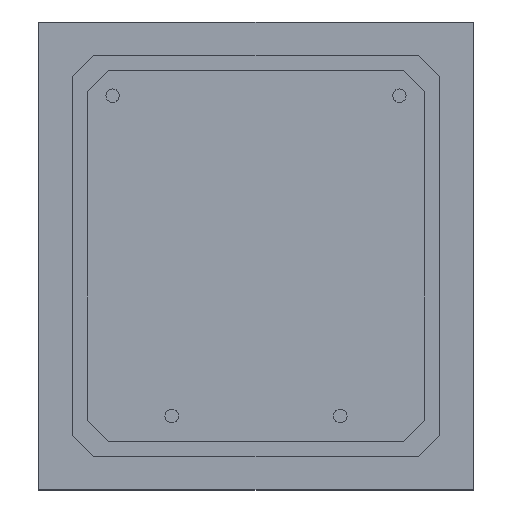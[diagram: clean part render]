
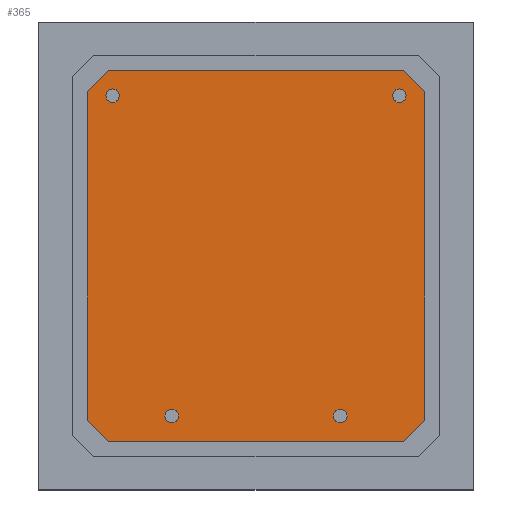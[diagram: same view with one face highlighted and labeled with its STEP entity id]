
A CAD part, top view. The second image highlights one B-rep face of the part: STEP entity #365.
In plain terms, the highlighted planar face has unit normal (0, 0, 1).
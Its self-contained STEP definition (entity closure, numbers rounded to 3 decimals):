
#67 = EDGE_CURVE ( 'NONE', #2549, #348, #2860, .T. ) ;
#72 = VERTEX_POINT ( 'NONE', #4650 ) ;
#82 = PLANE ( 'NONE',  #5729 ) ;
#152 = CARTESIAN_POINT ( 'NONE',  ( -16.9, -43.5, 1.6 ) ) ;
#180 = CARTESIAN_POINT ( 'NONE',  ( -33.5, -49.5, 1.6 ) ) ;
#206 = EDGE_LOOP ( 'NONE', ( #2972, #2688 ) ) ;
#213 = EDGE_CURVE ( 'NONE', #4214, #3494, #5117, .T. ) ;
#266 = DIRECTION ( 'NONE',  ( 0.707, -0.707, 0. ) ) ;
#274 = EDGE_CURVE ( 'NONE', #2752, #1969, #4060, .T. ) ;
#280 = CARTESIAN_POINT ( 'NONE',  ( -33.5, 38.5, 1.6 ) ) ;
#348 = VERTEX_POINT ( 'NONE', #152 ) ;
#349 = DIRECTION ( 'NONE',  ( 1., 0., 0. ) ) ;
#365 = ADVANCED_FACE ( 'NONE', ( #3114, #5958, #2092, #3531, #4486 ), #82, .T. ) ;
#402 = LINE ( 'NONE', #4826, #2582 ) ;
#424 = DIRECTION ( 'NONE',  ( 0., 0., 1. ) ) ;
#443 = EDGE_CURVE ( 'NONE', #1400, #5075, #1238, .T. ) ;
#511 = EDGE_LOOP ( 'NONE', ( #1100, #3897 ) ) ;
#573 = CARTESIAN_POINT ( 'NONE',  ( 36.5, 38.5, 1.6 ) ) ;
#617 = EDGE_CURVE ( 'NONE', #3647, #1400, #402, .T. ) ;
#626 = CIRCLE ( 'NONE', #1239, 1.6 ) ;
#730 = DIRECTION ( 'NONE',  ( 0., 0., 1. ) ) ;
#738 = EDGE_CURVE ( 'NONE', #3494, #4214, #3906, .T. ) ;
#748 = VERTEX_POINT ( 'NONE', #2019 ) ;
#779 = EDGE_CURVE ( 'NONE', #5577, #3647, #2138, .T. ) ;
#815 = VECTOR ( 'NONE', #3143, 1000. ) ;
#836 = DIRECTION ( 'NONE',  ( 1., 0., 0. ) ) ;
#892 = CARTESIAN_POINT ( 'NONE',  ( -32.5, 32.5, 1.6 ) ) ;
#925 = DIRECTION ( 'NONE',  ( 0., -1., 0. ) ) ;
#939 = AXIS2_PLACEMENT_3D ( 'NONE', #2254, #2831, #836 ) ;
#1100 = ORIENTED_EDGE ( 'NONE', *, *, #738, .F. ) ;
#1104 = CARTESIAN_POINT ( 'NONE',  ( 41.5, 33.5, 1.6 ) ) ;
#1238 = LINE ( 'NONE', #280, #3598 ) ;
#1239 = AXIS2_PLACEMENT_3D ( 'NONE', #4823, #2401, #4345 ) ;
#1292 = EDGE_LOOP ( 'NONE', ( #5805, #3855, #4406, #4730, #3671, #5293, #3939, #2321 ) ) ;
#1320 = DIRECTION ( 'NONE',  ( 1., 0., 0. ) ) ;
#1360 = CARTESIAN_POINT ( 'NONE',  ( 37.1, 32.5, 1.6 ) ) ;
#1372 = DIRECTION ( 'NONE',  ( 0., 0., 1. ) ) ;
#1400 = VERTEX_POINT ( 'NONE', #5369 ) ;
#1566 = DIRECTION ( 'NONE',  ( 0., 0., 1. ) ) ;
#1646 = ORIENTED_EDGE ( 'NONE', *, *, #5854, .F. ) ;
#1659 = EDGE_CURVE ( 'NONE', #2761, #2752, #1733, .T. ) ;
#1692 = EDGE_CURVE ( 'NONE', #348, #2549, #6312, .T. ) ;
#1733 = LINE ( 'NONE', #6167, #2851 ) ;
#1748 = CARTESIAN_POINT ( 'NONE',  ( 21.5, -43.5, 1.6 ) ) ;
#1796 = LINE ( 'NONE', #3316, #6060 ) ;
#1889 = LINE ( 'NONE', #3845, #5123 ) ;
#1969 = VERTEX_POINT ( 'NONE', #4495 ) ;
#2019 = CARTESIAN_POINT ( 'NONE',  ( 19.9, -43.5, 1.6 ) ) ;
#2054 = CARTESIAN_POINT ( 'NONE',  ( 0., 0., 1.6 ) ) ;
#2073 = CIRCLE ( 'NONE', #939, 1.6 ) ;
#2092 = FACE_OUTER_BOUND ( 'NONE', #1292, .T. ) ;
#2138 = LINE ( 'NONE', #1104, #4717 ) ;
#2148 = CARTESIAN_POINT ( 'NONE',  ( 23.1, -43.5, 1.6 ) ) ;
#2254 = CARTESIAN_POINT ( 'NONE',  ( 35.5, 32.5, 1.6 ) ) ;
#2304 = CARTESIAN_POINT ( 'NONE',  ( 35.5, 32.5, 1.6 ) ) ;
#2321 = ORIENTED_EDGE ( 'NONE', *, *, #5228, .T. ) ;
#2401 = DIRECTION ( 'NONE',  ( 0., 0., 1. ) ) ;
#2544 = VERTEX_POINT ( 'NONE', #2148 ) ;
#2549 = VERTEX_POINT ( 'NONE', #4134 ) ;
#2582 = VECTOR ( 'NONE', #4888, 1000. ) ;
#2598 = DIRECTION ( 'NONE',  ( -0.707, 0.707, 0. ) ) ;
#2597 = CIRCLE ( 'NONE', #5749, 1.6 ) ;
#2688 = ORIENTED_EDGE ( 'NONE', *, *, #1692, .F. ) ;
#2691 = VECTOR ( 'NONE', #925, 1000. ) ;
#2732 = ORIENTED_EDGE ( 'NONE', *, *, #3547, .F. ) ;
#2752 = VERTEX_POINT ( 'NONE', #5632 ) ;
#2761 = VERTEX_POINT ( 'NONE', #4647 ) ;
#2821 = CARTESIAN_POINT ( 'NONE',  ( -32.5, 32.5, 1.6 ) ) ;
#2831 = DIRECTION ( 'NONE',  ( 0., 0., 1. ) ) ;
#2851 = VECTOR ( 'NONE', #266, 1000. ) ;
#2860 = CIRCLE ( 'NONE', #4385, 1.6 ) ;
#2931 = EDGE_CURVE ( 'NONE', #1969, #3038, #1889, .T. ) ;
#2972 = ORIENTED_EDGE ( 'NONE', *, *, #67, .F. ) ;
#3001 = CIRCLE ( 'NONE', #3810, 1.6 ) ;
#3038 = VERTEX_POINT ( 'NONE', #3077 ) ;
#3077 = CARTESIAN_POINT ( 'NONE',  ( 41.5, -44.5, 1.6 ) ) ;
#3114 = FACE_BOUND ( 'NONE', #206, .T. ) ;
#3143 = DIRECTION ( 'NONE',  ( 1., 0., 0. ) ) ;
#3283 = DIRECTION ( 'NONE',  ( 0., 0., 1. ) ) ;
#3316 = CARTESIAN_POINT ( 'NONE',  ( 41.5, -44.5, 1.6 ) ) ;
#3361 = DIRECTION ( 'NONE',  ( 0.707, 0.707, 0. ) ) ;
#3386 = EDGE_CURVE ( 'NONE', #2544, #748, #626, .T. ) ;
#3432 = CARTESIAN_POINT ( 'NONE',  ( -38.5, 33.5, 1.6 ) ) ;
#3453 = AXIS2_PLACEMENT_3D ( 'NONE', #5647, #3283, #3731 ) ;
#3494 = VERTEX_POINT ( 'NONE', #4655 ) ;
#3531 = FACE_BOUND ( 'NONE', #4606, .T. ) ;
#3539 = EDGE_CURVE ( 'NONE', #3038, #5577, #1796, .T. ) ;
#3547 = EDGE_CURVE ( 'NONE', #72, #5842, #2073, .T. ) ;
#3598 = VECTOR ( 'NONE', #3680, 1000. ) ;
#3647 = VERTEX_POINT ( 'NONE', #573 ) ;
#3671 = ORIENTED_EDGE ( 'NONE', *, *, #779, .T. ) ;
#3680 = DIRECTION ( 'NONE',  ( -0.707, -0.707, 0. ) ) ;
#3731 = DIRECTION ( 'NONE',  ( 1., 0., 0. ) ) ;
#3765 = DIRECTION ( 'NONE',  ( 0., 0., 1. ) ) ;
#3791 = AXIS2_PLACEMENT_3D ( 'NONE', #892, #1372, #5275 ) ;
#3810 = AXIS2_PLACEMENT_3D ( 'NONE', #1748, #424, #4338 ) ;
#3845 = CARTESIAN_POINT ( 'NONE',  ( 36.5, -49.5, 1.6 ) ) ;
#3855 = ORIENTED_EDGE ( 'NONE', *, *, #274, .T. ) ;
#3897 = ORIENTED_EDGE ( 'NONE', *, *, #213, .F. ) ;
#3906 = CIRCLE ( 'NONE', #4816, 1.6 ) ;
#3939 = ORIENTED_EDGE ( 'NONE', *, *, #443, .T. ) ;
#4060 = LINE ( 'NONE', #180, #815 ) ;
#4134 = CARTESIAN_POINT ( 'NONE',  ( -20.1, -43.5, 1.6 ) ) ;
#4214 = VERTEX_POINT ( 'NONE', #5775 ) ;
#4338 = DIRECTION ( 'NONE',  ( 1., 0., 0. ) ) ;
#4345 = DIRECTION ( 'NONE',  ( 1., 0., 0. ) ) ;
#4385 = AXIS2_PLACEMENT_3D ( 'NONE', #4741, #730, #349 ) ;
#4406 = ORIENTED_EDGE ( 'NONE', *, *, #2931, .T. ) ;
#4485 = ORIENTED_EDGE ( 'NONE', *, *, #5573, .F. ) ;
#4486 = FACE_BOUND ( 'NONE', #5878, .T. ) ;
#4495 = CARTESIAN_POINT ( 'NONE',  ( 36.5, -49.5, 1.6 ) ) ;
#4606 = EDGE_LOOP ( 'NONE', ( #2732, #1646 ) ) ;
#4647 = CARTESIAN_POINT ( 'NONE',  ( -38.5, -44.5, 1.6 ) ) ;
#4650 = CARTESIAN_POINT ( 'NONE',  ( 33.9, 32.5, 1.6 ) ) ;
#4655 = CARTESIAN_POINT ( 'NONE',  ( -34.1, 32.5, 1.6 ) ) ;
#4717 = VECTOR ( 'NONE', #2598, 1000. ) ;
#4730 = ORIENTED_EDGE ( 'NONE', *, *, #3539, .T. ) ;
#4741 = CARTESIAN_POINT ( 'NONE',  ( -18.5, -43.5, 1.6 ) ) ;
#4744 = DIRECTION ( 'NONE',  ( 0., 1., 0. ) ) ;
#4816 = AXIS2_PLACEMENT_3D ( 'NONE', #2821, #6237, #5270 ) ;
#4823 = CARTESIAN_POINT ( 'NONE',  ( 21.5, -43.5, 1.6 ) ) ;
#4826 = CARTESIAN_POINT ( 'NONE',  ( 36.5, 38.5, 1.6 ) ) ;
#4888 = DIRECTION ( 'NONE',  ( -1., 0., 0. ) ) ;
#4890 = LINE ( 'NONE', #3432, #2691 ) ;
#5075 = VERTEX_POINT ( 'NONE', #5723 ) ;
#5117 = CIRCLE ( 'NONE', #3791, 1.6 ) ;
#5123 = VECTOR ( 'NONE', #3361, 1000. ) ;
#5228 = EDGE_CURVE ( 'NONE', #5075, #2761, #4890, .T. ) ;
#5270 = DIRECTION ( 'NONE',  ( 1., 0., 0. ) ) ;
#5275 = DIRECTION ( 'NONE',  ( 1., 0., 0. ) ) ;
#5293 = ORIENTED_EDGE ( 'NONE', *, *, #617, .T. ) ;
#5369 = CARTESIAN_POINT ( 'NONE',  ( -33.5, 38.5, 1.6 ) ) ;
#5477 = DIRECTION ( 'NONE',  ( 1., 0., 0. ) ) ;
#5573 = EDGE_CURVE ( 'NONE', #748, #2544, #3001, .T. ) ;
#5577 = VERTEX_POINT ( 'NONE', #6296 ) ;
#5632 = CARTESIAN_POINT ( 'NONE',  ( -33.5, -49.5, 1.6 ) ) ;
#5647 = CARTESIAN_POINT ( 'NONE',  ( -18.5, -43.5, 1.6 ) ) ;
#5723 = CARTESIAN_POINT ( 'NONE',  ( -38.5, 33.5, 1.6 ) ) ;
#5729 = AXIS2_PLACEMENT_3D ( 'NONE', #2054, #1566, #5477 ) ;
#5749 = AXIS2_PLACEMENT_3D ( 'NONE', #2304, #3765, #1320 ) ;
#5770 = ORIENTED_EDGE ( 'NONE', *, *, #3386, .F. ) ;
#5775 = CARTESIAN_POINT ( 'NONE',  ( -30.9, 32.5, 1.6 ) ) ;
#5805 = ORIENTED_EDGE ( 'NONE', *, *, #1659, .T. ) ;
#5842 = VERTEX_POINT ( 'NONE', #1360 ) ;
#5854 = EDGE_CURVE ( 'NONE', #5842, #72, #2597, .T. ) ;
#5878 = EDGE_LOOP ( 'NONE', ( #4485, #5770 ) ) ;
#5958 = FACE_BOUND ( 'NONE', #511, .T. ) ;
#6060 = VECTOR ( 'NONE', #4744, 1000. ) ;
#6167 = CARTESIAN_POINT ( 'NONE',  ( -38.5, -44.5, 1.6 ) ) ;
#6237 = DIRECTION ( 'NONE',  ( 0., 0., 1. ) ) ;
#6296 = CARTESIAN_POINT ( 'NONE',  ( 41.5, 33.5, 1.6 ) ) ;
#6312 = CIRCLE ( 'NONE', #3453, 1.6 ) ;
